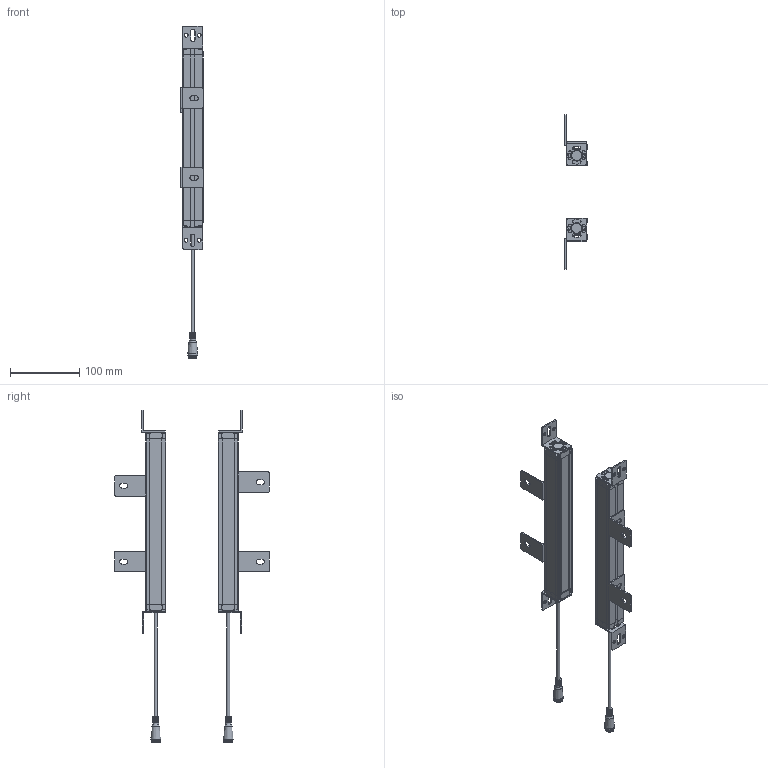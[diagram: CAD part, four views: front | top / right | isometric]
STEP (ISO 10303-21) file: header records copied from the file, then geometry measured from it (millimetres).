
FILE_DESCRIPTION(/* description */ (''),/* implementation_level */ '2;1');
FILE_NAME(/* name */ '0640（29x30）_stp_stp.stp',/* time_stamp */ '2023-04-28T10:27:32+08:00',/* author */ (''),/* organization */ (''),/* preprocessor_version */ 'ST-DEVELOPER v16.7',/* originating_system */ 'SIEMENS PLM Software NX 12.0',/* authorisation */ '');
FILE_SCHEMA (('AUTOMOTIVE_DESIGN { 1 0 10303 214 3 1 1 1 }'));
Products named in the file (1): 0640（29x30）_stp_stp_stp
Bounding box: 32.03 x 223.99 x 481 mm (x, y, z)
Volume: 196938.8 mm3; surface area: 207452.3 mm2
Topology: 34 solids, 34 shells, 1610 faces, 4267 edges, 2771 vertices
Faces by surface type: plane 750, cylinder 648, bspline 88, sphere 36, cone 36, torus 32, extrusion 20
Full cylindrical faces by diameter (mm): 1.533 x6, 4.4 x4, 9 x2, 12.5 x2
Entity records: 56427 total; most frequent: CARTESIAN_POINT 16064, DIRECTION 8330, ORIENTED_EDGE 8324, EDGE_CURVE 4162, AXIS2_PLACEMENT_3D 2918, VERTEX_POINT 2696, VECTOR 2494, LINE 2474
